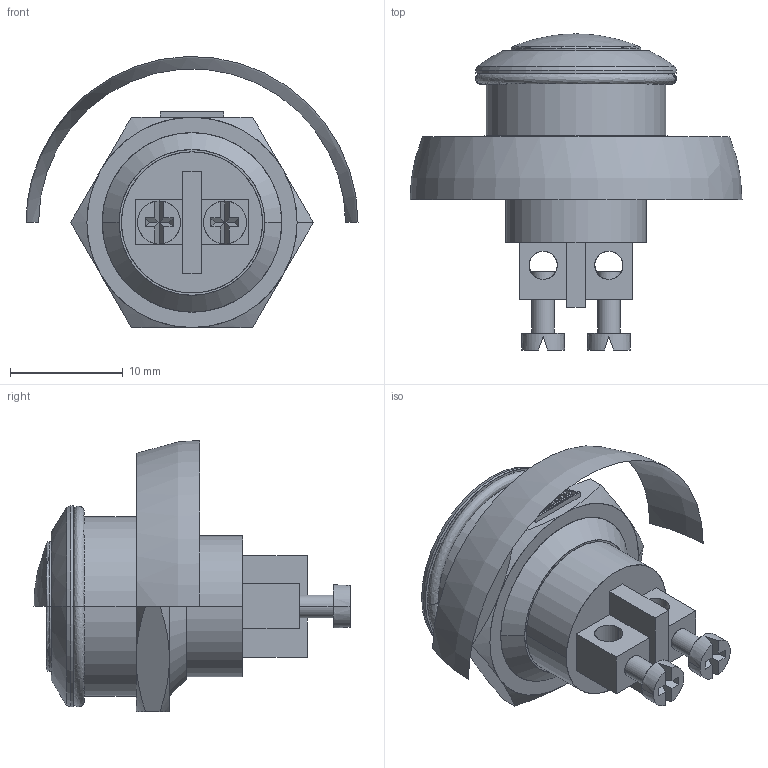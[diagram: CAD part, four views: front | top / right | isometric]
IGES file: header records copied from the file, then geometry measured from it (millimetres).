
Start section: SolidWorks IGES file using analytic representation for surfaces
Global section: file name: D:\X - Arquivos\PROEX\Empresas\P11 - METALTEX\01 - Produtos\IGES\Segunda remessa\AV16BA.IGS; native system: SolidWorks 2012; preprocessor: SolidWorks 2012; author: Usuario; date: 180117.123205; units: millimetre
Bounding box: 29.4 x 28 x 24.01 mm (x, y, z)
Surface area: 2264.6 mm2 (no closed solid volume)
Topology: 0 solids, 0 shells, 202 faces, 2050 edges, 2049 vertices
Faces by surface type: bspline 154, revolution 48
